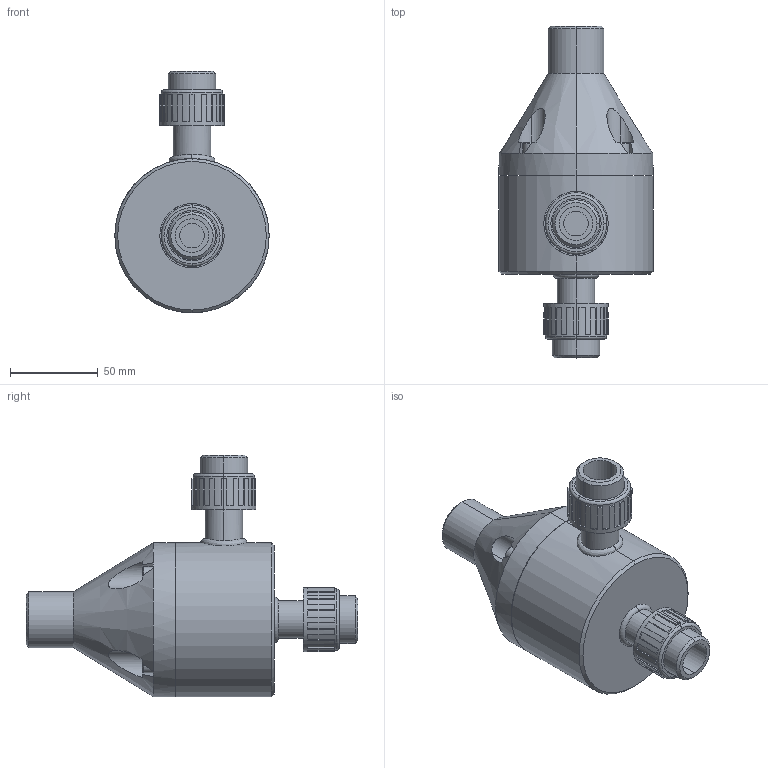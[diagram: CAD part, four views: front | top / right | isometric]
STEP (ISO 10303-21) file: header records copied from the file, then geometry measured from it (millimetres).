
FILE_DESCRIPTION (( 'STEP AP203' ), '1' );
FILE_NAME ('Gbp0500_90-UNION.STEP', '2016-08-31T07:46:29', ( '' ), ( '' ), 'SwSTEP 2.0', 'SolidWorks 2014', '' );
FILE_SCHEMA (( 'CONFIG_CONTROL_DESIGN' ));
Length unit declared in the file: inch
Products named in the file (2): Gbp0500_90-UNION
Bounding box: 87.63 x 188.59 x 137.29 mm (x, y, z)
Volume: 617946.4 mm3; surface area: 62078.3 mm2
Topology: 1 solids, 1 shells, 293 faces, 764 edges, 497 vertices
Faces by surface type: plane 209, cylinder 52, cone 22, torus 8, bspline 2
Entity records: 10062 total; most frequent: CARTESIAN_POINT 2495, DIRECTION 1607, ORIENTED_EDGE 1528, EDGE_CURVE 764, AXIS2_PLACEMENT_3D 573, VERTEX_POINT 497, LINE 461, VECTOR 461
